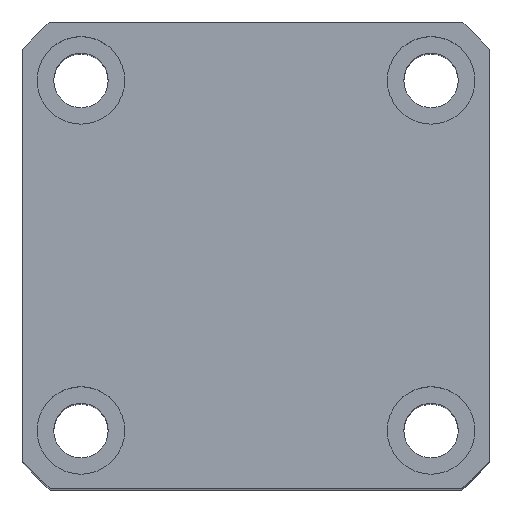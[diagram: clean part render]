
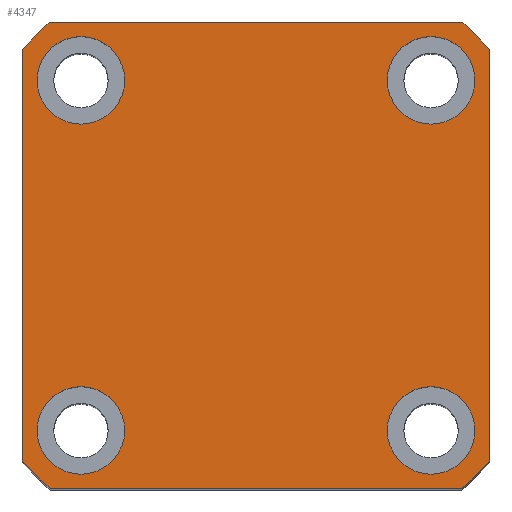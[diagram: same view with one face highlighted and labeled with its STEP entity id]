
A CAD part, top view. The second image highlights one B-rep face of the part: STEP entity #4347.
In plain terms, the highlighted planar face has unit normal (0, 0, 1) as drawn and (1, 0, 0) by its records, which use the part's own axes.
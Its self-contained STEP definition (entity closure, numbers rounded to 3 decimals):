
#9 = ORIENTED_EDGE ( 'NONE', *, *, #6347, .F. ) ;
#194 = EDGE_CURVE ( 'NONE', #2190, #1392, #750, .T. ) ;
#216 = CIRCLE ( 'NONE', #4962, 4.5 ) ;
#233 = ORIENTED_EDGE ( 'NONE', *, *, #2782, .F. ) ;
#317 = DIRECTION ( 'NONE',  ( 0., 0., -1. ) ) ;
#319 = FACE_BOUND ( 'NONE', #2081, .T. ) ;
#365 = CIRCLE ( 'NONE', #6408, 4.5 ) ;
#474 = PLANE ( 'NONE',  #5508 ) ;
#479 = EDGE_LOOP ( 'NONE', ( #918, #233 ) ) ;
#501 = ORIENTED_EDGE ( 'NONE', *, *, #3352, .T. ) ;
#504 = CIRCLE ( 'NONE', #4276, 32. ) ;
#518 = CIRCLE ( 'NONE', #836, 32. ) ;
#563 = VECTOR ( 'NONE', #5076, 1000. ) ;
#591 = CARTESIAN_POINT ( 'NONE',  ( 70., 18., 22.5 ) ) ;
#600 = CARTESIAN_POINT ( 'NONE',  ( 70., 18., -22.5 ) ) ;
#652 = DIRECTION ( 'NONE',  ( 0., 0., -1. ) ) ;
#725 = EDGE_CURVE ( 'NONE', #2142, #3792, #2310, .T. ) ;
#750 = LINE ( 'NONE', #6818, #7323 ) ;
#751 = ORIENTED_EDGE ( 'NONE', *, *, #6841, .F. ) ;
#814 = CIRCLE ( 'NONE', #2474, 4.5 ) ;
#833 = CIRCLE ( 'NONE', #5706, 4.5 ) ;
#836 = AXIS2_PLACEMENT_3D ( 'NONE', #5715, #2020, #6326 ) ;
#918 = ORIENTED_EDGE ( 'NONE', *, *, #5500, .F. ) ;
#936 = AXIS2_PLACEMENT_3D ( 'NONE', #6470, #5852, #5718 ) ;
#1027 = VERTEX_POINT ( 'NONE', #6228 ) ;
#1059 = CARTESIAN_POINT ( 'NONE',  ( 70., -18., 18. ) ) ;
#1108 = VERTEX_POINT ( 'NONE', #600 ) ;
#1116 = DIRECTION ( 'NONE',  ( 0., 0., -1. ) ) ;
#1200 = CARTESIAN_POINT ( 'NONE',  ( 70., 18., -18. ) ) ;
#1353 = CARTESIAN_POINT ( 'NONE',  ( 70., -24., -21.166 ) ) ;
#1392 = VERTEX_POINT ( 'NONE', #4989 ) ;
#1454 = ORIENTED_EDGE ( 'NONE', *, *, #4784, .F. ) ;
#1470 = VERTEX_POINT ( 'NONE', #1353 ) ;
#1478 = VERTEX_POINT ( 'NONE', #2610 ) ;
#1658 = EDGE_CURVE ( 'NONE', #3732, #2685, #6837, .T. ) ;
#1687 = DIRECTION ( 'NONE',  ( 0., 0., -1. ) ) ;
#1786 = ORIENTED_EDGE ( 'NONE', *, *, #1658, .T. ) ;
#1837 = DIRECTION ( 'NONE',  ( 0., 0., -1. ) ) ;
#1847 = CARTESIAN_POINT ( 'NONE',  ( 70., 18., -13.5 ) ) ;
#1931 = VECTOR ( 'NONE', #2721, 1000. ) ;
#1988 = CARTESIAN_POINT ( 'NONE',  ( 70., 24., 24. ) ) ;
#1993 = FACE_BOUND ( 'NONE', #4607, .T. ) ;
#2020 = DIRECTION ( 'NONE',  ( 1., 0., 0. ) ) ;
#2081 = EDGE_LOOP ( 'NONE', ( #1454, #751 ) ) ;
#2142 = VERTEX_POINT ( 'NONE', #7728 ) ;
#2190 = VERTEX_POINT ( 'NONE', #3418 ) ;
#2215 = DIRECTION ( 'NONE',  ( 1., 0., 0. ) ) ;
#2236 = VERTEX_POINT ( 'NONE', #2873 ) ;
#2238 = LINE ( 'NONE', #1988, #563 ) ;
#2310 = CIRCLE ( 'NONE', #936, 4.5 ) ;
#2474 = AXIS2_PLACEMENT_3D ( 'NONE', #5897, #2215, #6512 ) ;
#2583 = VERTEX_POINT ( 'NONE', #591 ) ;
#2610 = CARTESIAN_POINT ( 'NONE',  ( 70., -24., 21.166 ) ) ;
#2640 = ORIENTED_EDGE ( 'NONE', *, *, #6792, .T. ) ;
#2647 = DIRECTION ( 'NONE',  ( 1., 0., 0. ) ) ;
#2670 = VERTEX_POINT ( 'NONE', #5081 ) ;
#2685 = VERTEX_POINT ( 'NONE', #6959 ) ;
#2707 = ORIENTED_EDGE ( 'NONE', *, *, #725, .F. ) ;
#2721 = DIRECTION ( 'NONE',  ( 0., 0., -1. ) ) ;
#2782 = EDGE_CURVE ( 'NONE', #4026, #2236, #833, .T. ) ;
#2812 = CIRCLE ( 'NONE', #5321, 4.5 ) ;
#2873 = CARTESIAN_POINT ( 'NONE',  ( 70., -18., 13.5 ) ) ;
#2881 = CARTESIAN_POINT ( 'NONE',  ( 70., 18., -18. ) ) ;
#2995 = CARTESIAN_POINT ( 'NONE',  ( 70., 0., 0. ) ) ;
#3084 = CARTESIAN_POINT ( 'NONE',  ( 70., -18., -18. ) ) ;
#3138 = ORIENTED_EDGE ( 'NONE', *, *, #4940, .F. ) ;
#3194 = DIRECTION ( 'NONE',  ( 1., 0., 0. ) ) ;
#3352 = EDGE_CURVE ( 'NONE', #1470, #2190, #518, .T. ) ;
#3372 = VECTOR ( 'NONE', #5490, 1000. ) ;
#3418 = CARTESIAN_POINT ( 'NONE',  ( 70., -21.166, -24. ) ) ;
#3469 = EDGE_LOOP ( 'NONE', ( #7155, #8040, #2640, #5197, #1786, #7394, #3956, #501 ) ) ;
#3495 = DIRECTION ( 'NONE',  ( 0., 0., -1. ) ) ;
#3556 = AXIS2_PLACEMENT_3D ( 'NONE', #1059, #5384, #1687 ) ;
#3588 = CARTESIAN_POINT ( 'NONE',  ( 70., 0., 0. ) ) ;
#3597 = CARTESIAN_POINT ( 'NONE',  ( 70., 24., 24. ) ) ;
#3633 = FACE_BOUND ( 'NONE', #7174, .T. ) ;
#3695 = DIRECTION ( 'NONE',  ( 0., 0., -1. ) ) ;
#3732 = VERTEX_POINT ( 'NONE', #5135 ) ;
#3792 = VERTEX_POINT ( 'NONE', #4600 ) ;
#3830 = FACE_BOUND ( 'NONE', #479, .T. ) ;
#3956 = ORIENTED_EDGE ( 'NONE', *, *, #5295, .T. ) ;
#4026 = VERTEX_POINT ( 'NONE', #5337 ) ;
#4062 = DIRECTION ( 'NONE',  ( 1., 0., 0. ) ) ;
#4213 = DIRECTION ( 'NONE',  ( 0., 0., -1. ) ) ;
#4253 = CIRCLE ( 'NONE', #7707, 4.5 ) ;
#4276 = AXIS2_PLACEMENT_3D ( 'NONE', #3588, #7906, #4213 ) ;
#4332 = EDGE_CURVE ( 'NONE', #2685, #1478, #504, .T. ) ;
#4347 = ADVANCED_FACE ( 'NONE', ( #3633, #3830, #1993, #319, #6713 ), #474, .T. ) ;
#4383 = DIRECTION ( 'NONE',  ( 1., 0., 0. ) ) ;
#4480 = EDGE_CURVE ( 'NONE', #6534, #3732, #6325, .T. ) ;
#4600 = CARTESIAN_POINT ( 'NONE',  ( 70., -18., -22.5 ) ) ;
#4607 = EDGE_LOOP ( 'NONE', ( #3138, #9 ) ) ;
#4648 = CIRCLE ( 'NONE', #3556, 4.5 ) ;
#4746 = CIRCLE ( 'NONE', #5360, 32. ) ;
#4784 = EDGE_CURVE ( 'NONE', #2670, #2583, #814, .T. ) ;
#4842 = DIRECTION ( 'NONE',  ( 1., 0., 0. ) ) ;
#4940 = EDGE_CURVE ( 'NONE', #1108, #6119, #216, .T. ) ;
#4962 = AXIS2_PLACEMENT_3D ( 'NONE', #2881, #7168, #3495 ) ;
#4989 = CARTESIAN_POINT ( 'NONE',  ( 70., 21.166, -24. ) ) ;
#5050 = EDGE_CURVE ( 'NONE', #1392, #1027, #4746, .T. ) ;
#5076 = DIRECTION ( 'NONE',  ( 0., 0., 1. ) ) ;
#5081 = CARTESIAN_POINT ( 'NONE',  ( 70., 18., 13.5 ) ) ;
#5135 = CARTESIAN_POINT ( 'NONE',  ( 70., 21.166, 24. ) ) ;
#5197 = ORIENTED_EDGE ( 'NONE', *, *, #4480, .T. ) ;
#5295 = EDGE_CURVE ( 'NONE', #1478, #1470, #5604, .T. ) ;
#5321 = AXIS2_PLACEMENT_3D ( 'NONE', #1200, #5535, #1837 ) ;
#5337 = CARTESIAN_POINT ( 'NONE',  ( 70., -18., 22.5 ) ) ;
#5360 = AXIS2_PLACEMENT_3D ( 'NONE', #2995, #4383, #652 ) ;
#5384 = DIRECTION ( 'NONE',  ( 1., 0., 0. ) ) ;
#5490 = DIRECTION ( 'NONE',  ( 0., -1., 0. ) ) ;
#5500 = EDGE_CURVE ( 'NONE', #2236, #4026, #4648, .T. ) ;
#5508 = AXIS2_PLACEMENT_3D ( 'NONE', #7266, #4842, #1116 ) ;
#5535 = DIRECTION ( 'NONE',  ( 1., 0., 0. ) ) ;
#5604 = LINE ( 'NONE', #5774, #1931 ) ;
#5651 = EDGE_CURVE ( 'NONE', #3792, #2142, #4253, .T. ) ;
#5706 = AXIS2_PLACEMENT_3D ( 'NONE', #7753, #4062, #317 ) ;
#5715 = CARTESIAN_POINT ( 'NONE',  ( 70., 0., 0. ) ) ;
#5718 = DIRECTION ( 'NONE',  ( 0., 0., -1. ) ) ;
#5774 = CARTESIAN_POINT ( 'NONE',  ( 70., -24., 24. ) ) ;
#5852 = DIRECTION ( 'NONE',  ( 1., 0., 0. ) ) ;
#5897 = CARTESIAN_POINT ( 'NONE',  ( 70., 18., 18. ) ) ;
#6119 = VERTEX_POINT ( 'NONE', #1847 ) ;
#6169 = DIRECTION ( 'NONE',  ( 0., 1., 0. ) ) ;
#6228 = CARTESIAN_POINT ( 'NONE',  ( 70., 24., -21.166 ) ) ;
#6325 = CIRCLE ( 'NONE', #7572, 32. ) ;
#6326 = DIRECTION ( 'NONE',  ( 0., 0., -1. ) ) ;
#6327 = CARTESIAN_POINT ( 'NONE',  ( 70., 18., 18. ) ) ;
#6347 = EDGE_CURVE ( 'NONE', #6119, #1108, #2812, .T. ) ;
#6408 = AXIS2_PLACEMENT_3D ( 'NONE', #6327, #2647, #6952 ) ;
#6470 = CARTESIAN_POINT ( 'NONE',  ( 70., -18., -18. ) ) ;
#6512 = DIRECTION ( 'NONE',  ( 0., 0., -1. ) ) ;
#6534 = VERTEX_POINT ( 'NONE', #7646 ) ;
#6713 = FACE_OUTER_BOUND ( 'NONE', #3469, .T. ) ;
#6792 = EDGE_CURVE ( 'NONE', #1027, #6534, #2238, .T. ) ;
#6818 = CARTESIAN_POINT ( 'NONE',  ( 70., 24., -24. ) ) ;
#6837 = LINE ( 'NONE', #3597, #3372 ) ;
#6841 = EDGE_CURVE ( 'NONE', #2583, #2670, #365, .T. ) ;
#6867 = CARTESIAN_POINT ( 'NONE',  ( 70., 0., 0. ) ) ;
#6952 = DIRECTION ( 'NONE',  ( 0., 0., -1. ) ) ;
#6959 = CARTESIAN_POINT ( 'NONE',  ( 70., -21.166, 24. ) ) ;
#7155 = ORIENTED_EDGE ( 'NONE', *, *, #194, .T. ) ;
#7168 = DIRECTION ( 'NONE',  ( 1., 0., 0. ) ) ;
#7174 = EDGE_LOOP ( 'NONE', ( #7799, #2707 ) ) ;
#7266 = CARTESIAN_POINT ( 'NONE',  ( 70., 0., 0. ) ) ;
#7323 = VECTOR ( 'NONE', #6169, 1000. ) ;
#7374 = DIRECTION ( 'NONE',  ( 1., 0., 0. ) ) ;
#7394 = ORIENTED_EDGE ( 'NONE', *, *, #4332, .T. ) ;
#7494 = DIRECTION ( 'NONE',  ( 0., 0., -1. ) ) ;
#7572 = AXIS2_PLACEMENT_3D ( 'NONE', #6867, #3194, #7494 ) ;
#7646 = CARTESIAN_POINT ( 'NONE',  ( 70., 24., 21.166 ) ) ;
#7707 = AXIS2_PLACEMENT_3D ( 'NONE', #3084, #7374, #3695 ) ;
#7728 = CARTESIAN_POINT ( 'NONE',  ( 70., -18., -13.5 ) ) ;
#7753 = CARTESIAN_POINT ( 'NONE',  ( 70., -18., 18. ) ) ;
#7799 = ORIENTED_EDGE ( 'NONE', *, *, #5651, .F. ) ;
#7906 = DIRECTION ( 'NONE',  ( 1., 0., 0. ) ) ;
#8040 = ORIENTED_EDGE ( 'NONE', *, *, #5050, .T. ) ;
